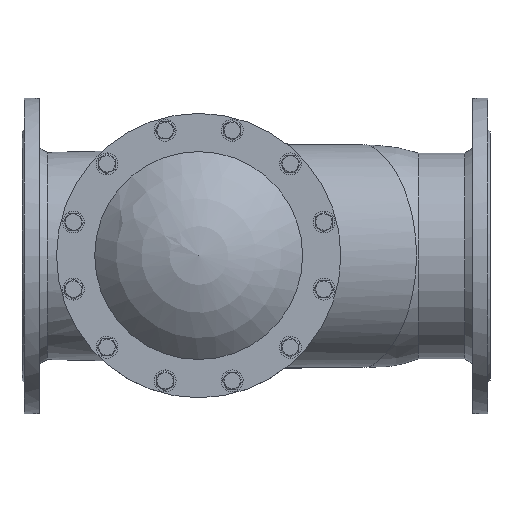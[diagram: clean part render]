
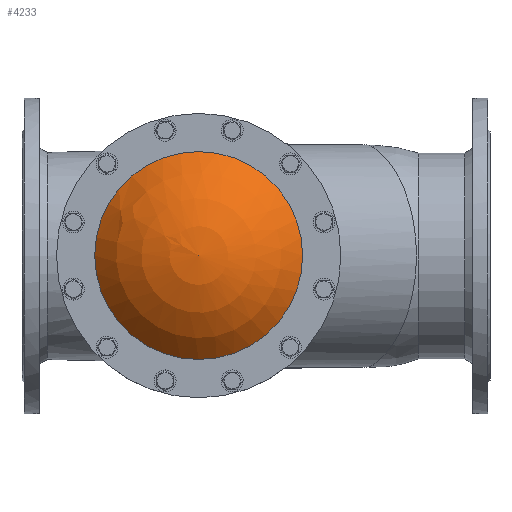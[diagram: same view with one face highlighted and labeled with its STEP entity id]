
A CAD part, top view. The second image highlights one B-rep face of the part: STEP entity #4233.
In plain terms, the highlighted spherical face has radius 174.232 mm.
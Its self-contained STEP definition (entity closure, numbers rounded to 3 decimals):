
#4233=ADVANCED_FACE('',(#7961),#7963,.T.);
#7961=FACE_OUTER_BOUND('',#7962,.T.);
#7962=EDGE_LOOP('',(#12373));
#7963=SPHERICAL_SURFACE('',#7964,174.232);
#7964=AXIS2_PLACEMENT_3D('',#7965,#7966,#7967);
#7965=CARTESIAN_POINT('',(0.,0.,-98.232));
#7966=DIRECTION('',(0.,0.,1.));
#7967=DIRECTION('',(0.,1.,0.));
#12373=ORIENTED_EDGE('',*,*,#13573,.F.);
#13573=EDGE_CURVE('',#15324,#15324,#15325,.F.);
#15324=VERTEX_POINT('',#21757);
#15325=CIRCLE('',#21758,133.269);
#21757=CARTESIAN_POINT('',(0.,133.269,14.));
#21758=AXIS2_PLACEMENT_3D('',#21759,#21760,#21761);
#21759=CARTESIAN_POINT('',(0.,0.,14.));
#21760=DIRECTION('',(0.,0.,1.));
#21761=DIRECTION('',(0.,1.,0.));
